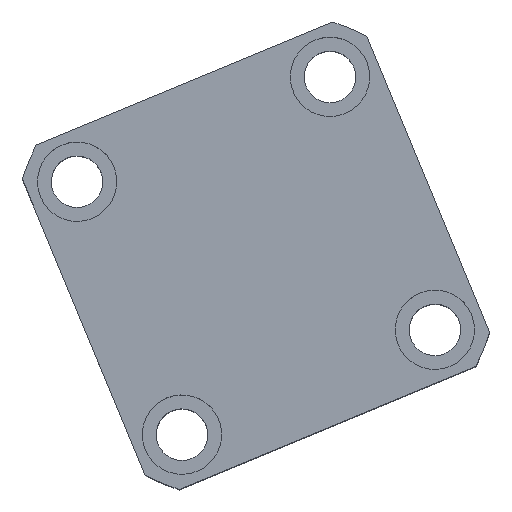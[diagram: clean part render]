
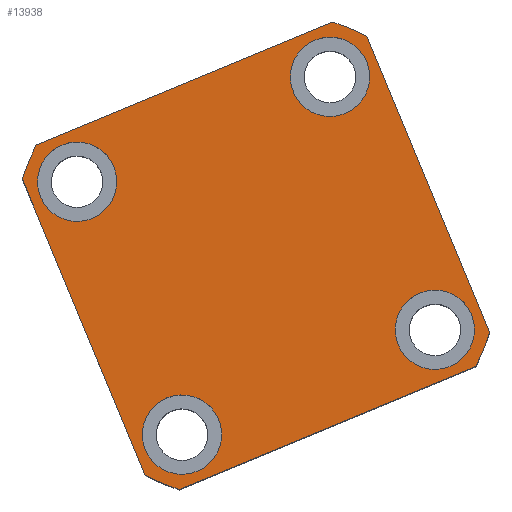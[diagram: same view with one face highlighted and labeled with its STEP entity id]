
A CAD part, top view. The second image highlights one B-rep face of the part: STEP entity #13938.
In plain terms, the highlighted planar face has unit normal (0, 0, 1) as drawn and (0, 0, -1) by its records, which use the part's own axes.
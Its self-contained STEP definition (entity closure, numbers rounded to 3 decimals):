
#103 = CARTESIAN_POINT ( 'NONE',  ( 47., 47., 0. ) ) ;
#161 = CARTESIAN_POINT ( 'NONE',  ( 24.5, 34.5, 0. ) ) ;
#174 = LINE ( 'NONE', #7359, #17103 ) ;
#312 = CARTESIAN_POINT ( 'NONE',  ( -44.5, -34.5, 0. ) ) ;
#313 = FACE_BOUND ( 'NONE', #1278, .T. ) ;
#361 = VECTOR ( 'NONE', #8508, 1000. ) ;
#400 = CARTESIAN_POINT ( 'NONE',  ( 24.5, -34.5, 0. ) ) ;
#484 = DIRECTION ( 'NONE',  ( -1., 0., 0. ) ) ;
#492 = DIRECTION ( 'NONE',  ( 0., 0., 1. ) ) ;
#501 = DIRECTION ( 'NONE',  ( 0., 0., 1. ) ) ;
#611 = EDGE_LOOP ( 'NONE', ( #2810, #8060 ) ) ;
#699 = ORIENTED_EDGE ( 'NONE', *, *, #10868, .F. ) ;
#850 = DIRECTION ( 'NONE',  ( -1., 0., 0. ) ) ;
#938 = EDGE_CURVE ( 'NONE', #4225, #12045, #15136, .T. ) ;
#1091 = CARTESIAN_POINT ( 'NONE',  ( 34.5, -34.5, 0. ) ) ;
#1153 = ORIENTED_EDGE ( 'NONE', *, *, #5735, .F. ) ;
#1263 = EDGE_CURVE ( 'NONE', #16532, #9611, #10691, .T. ) ;
#1278 = EDGE_LOOP ( 'NONE', ( #1153, #9631 ) ) ;
#1404 = CIRCLE ( 'NONE', #14700, 10. ) ;
#1447 = VERTEX_POINT ( 'NONE', #13369 ) ;
#1728 = EDGE_LOOP ( 'NONE', ( #7489, #14930 ) ) ;
#1844 = VERTEX_POINT ( 'NONE', #14353 ) ;
#1932 = DIRECTION ( 'NONE',  ( 0., -1., 0. ) ) ;
#2237 = AXIS2_PLACEMENT_3D ( 'NONE', #1091, #10659, #2471 ) ;
#2323 = DIRECTION ( 'NONE',  ( 0., 0., -1. ) ) ;
#2344 = CARTESIAN_POINT ( 'NONE',  ( 44.5, 34.5, 0. ) ) ;
#2357 = ORIENTED_EDGE ( 'NONE', *, *, #8253, .F. ) ;
#2471 = DIRECTION ( 'NONE',  ( -1., 0., 0. ) ) ;
#2764 = EDGE_CURVE ( 'NONE', #6908, #12779, #10477, .T. ) ;
#2810 = ORIENTED_EDGE ( 'NONE', *, *, #2764, .F. ) ;
#2971 = AXIS2_PLACEMENT_3D ( 'NONE', #7930, #17462, #9298 ) ;
#3172 = VERTEX_POINT ( 'NONE', #9574 ) ;
#3233 = CARTESIAN_POINT ( 'NONE',  ( -34.5, 34.5, 0. ) ) ;
#3366 = CIRCLE ( 'NONE', #17109, 62. ) ;
#3500 = ORIENTED_EDGE ( 'NONE', *, *, #938, .F. ) ;
#3596 = CARTESIAN_POINT ( 'NONE',  ( 34.5, 34.5, 0. ) ) ;
#3811 = ORIENTED_EDGE ( 'NONE', *, *, #14426, .F. ) ;
#4085 = EDGE_CURVE ( 'NONE', #4967, #10152, #11277, .T. ) ;
#4185 = VECTOR ( 'NONE', #15156, 1000. ) ;
#4225 = VERTEX_POINT ( 'NONE', #9407 ) ;
#4248 = DIRECTION ( 'NONE',  ( 0., 0., -1. ) ) ;
#4285 = CARTESIAN_POINT ( 'NONE',  ( 40.435, -47., 0. ) ) ;
#4385 = CARTESIAN_POINT ( 'NONE',  ( -47., -47., 0. ) ) ;
#4495 = DIRECTION ( 'NONE',  ( 0., 0., 1. ) ) ;
#4607 = DIRECTION ( 'NONE',  ( -1., 0., 0. ) ) ;
#4765 = CARTESIAN_POINT ( 'NONE',  ( 0., 0., 0. ) ) ;
#4937 = CARTESIAN_POINT ( 'NONE',  ( -47., 47., 0. ) ) ;
#4967 = VERTEX_POINT ( 'NONE', #13438 ) ;
#4975 = DIRECTION ( 'NONE',  ( -1., 0., 0. ) ) ;
#5133 = CARTESIAN_POINT ( 'NONE',  ( 40.435, 47., 0. ) ) ;
#5182 = EDGE_CURVE ( 'NONE', #6122, #1447, #14861, .T. ) ;
#5447 = AXIS2_PLACEMENT_3D ( 'NONE', #15232, #492, #10076 ) ;
#5735 = EDGE_CURVE ( 'NONE', #12577, #1844, #1404, .T. ) ;
#5755 = EDGE_CURVE ( 'NONE', #14320, #7280, #7846, .T. ) ;
#6030 = CARTESIAN_POINT ( 'NONE',  ( -24.5, -34.5, 0. ) ) ;
#6122 = VERTEX_POINT ( 'NONE', #400 ) ;
#6151 = DIRECTION ( 'NONE',  ( 1., 0., 0. ) ) ;
#6275 = DIRECTION ( 'NONE',  ( 0., 0., 1. ) ) ;
#6372 = AXIS2_PLACEMENT_3D ( 'NONE', #4765, #14292, #6151 ) ;
#6772 = ORIENTED_EDGE ( 'NONE', *, *, #4085, .F. ) ;
#6798 = EDGE_LOOP ( 'NONE', ( #11130, #9826, #15850, #6772, #3811, #2357, #3500, #9234 ) ) ;
#6908 = VERTEX_POINT ( 'NONE', #312 ) ;
#7124 = AXIS2_PLACEMENT_3D ( 'NONE', #10512, #2323, #11862 ) ;
#7162 = LINE ( 'NONE', #4937, #17630 ) ;
#7190 = FACE_OUTER_BOUND ( 'NONE', #6798, .T. ) ;
#7280 = VERTEX_POINT ( 'NONE', #8967 ) ;
#7359 = CARTESIAN_POINT ( 'NONE',  ( -47., 47., 0. ) ) ;
#7489 = ORIENTED_EDGE ( 'NONE', *, *, #5182, .F. ) ;
#7646 = FACE_BOUND ( 'NONE', #611, .T. ) ;
#7846 = LINE ( 'NONE', #103, #4185 ) ;
#7930 = CARTESIAN_POINT ( 'NONE',  ( -34.5, -34.5, 0. ) ) ;
#8038 = CIRCLE ( 'NONE', #7124, 10. ) ;
#8060 = ORIENTED_EDGE ( 'NONE', *, *, #16158, .F. ) ;
#8067 = FACE_BOUND ( 'NONE', #1728, .T. ) ;
#8253 = EDGE_CURVE ( 'NONE', #12045, #3172, #174, .T. ) ;
#8292 = AXIS2_PLACEMENT_3D ( 'NONE', #3233, #12784, #4607 ) ;
#8318 = AXIS2_PLACEMENT_3D ( 'NONE', #16867, #8704, #484 ) ;
#8508 = DIRECTION ( 'NONE',  ( 1., 0., 0. ) ) ;
#8704 = DIRECTION ( 'NONE',  ( 0., 0., -1. ) ) ;
#8709 = PLANE ( 'NONE',  #5447 ) ;
#8716 = CARTESIAN_POINT ( 'NONE',  ( 0., 0., 0. ) ) ;
#8967 = CARTESIAN_POINT ( 'NONE',  ( 47., 40.435, 0. ) ) ;
#9053 = DIRECTION ( 'NONE',  ( 0., 0., -1. ) ) ;
#9098 = VERTEX_POINT ( 'NONE', #5133 ) ;
#9234 = ORIENTED_EDGE ( 'NONE', *, *, #11064, .F. ) ;
#9298 = DIRECTION ( 'NONE',  ( -1., 0., 0. ) ) ;
#9307 = CIRCLE ( 'NONE', #8292, 10. ) ;
#9407 = CARTESIAN_POINT ( 'NONE',  ( -40.435, 47., 0. ) ) ;
#9574 = CARTESIAN_POINT ( 'NONE',  ( -47., -40.435, 0. ) ) ;
#9611 = VERTEX_POINT ( 'NONE', #2344 ) ;
#9631 = ORIENTED_EDGE ( 'NONE', *, *, #11912, .F. ) ;
#9826 = ORIENTED_EDGE ( 'NONE', *, *, #5755, .F. ) ;
#10041 = ORIENTED_EDGE ( 'NONE', *, *, #1263, .F. ) ;
#10076 = DIRECTION ( 'NONE',  ( 1., 0., 0. ) ) ;
#10084 = DIRECTION ( 'NONE',  ( 1., 0., 0. ) ) ;
#10152 = VERTEX_POINT ( 'NONE', #4285 ) ;
#10477 = CIRCLE ( 'NONE', #11813, 10. ) ;
#10512 = CARTESIAN_POINT ( 'NONE',  ( 34.5, 34.5, 0. ) ) ;
#10659 = DIRECTION ( 'NONE',  ( 0., 0., -1. ) ) ;
#10691 = CIRCLE ( 'NONE', #16165, 10. ) ;
#10868 = EDGE_CURVE ( 'NONE', #9611, #16532, #8038, .T. ) ;
#11024 = CIRCLE ( 'NONE', #17336, 62. ) ;
#11064 = EDGE_CURVE ( 'NONE', #9098, #4225, #7162, .T. ) ;
#11130 = ORIENTED_EDGE ( 'NONE', *, *, #12960, .F. ) ;
#11277 = LINE ( 'NONE', #4385, #361 ) ;
#11337 = EDGE_CURVE ( 'NONE', #1447, #6122, #16351, .T. ) ;
#11813 = AXIS2_PLACEMENT_3D ( 'NONE', #17222, #9053, #850 ) ;
#11862 = DIRECTION ( 'NONE',  ( -1., 0., 0. ) ) ;
#11912 = EDGE_CURVE ( 'NONE', #1844, #12577, #9307, .T. ) ;
#11996 = CARTESIAN_POINT ( 'NONE',  ( -44.5, 34.5, 0. ) ) ;
#12045 = VERTEX_POINT ( 'NONE', #15586 ) ;
#12426 = CARTESIAN_POINT ( 'NONE',  ( -34.5, 34.5, 0. ) ) ;
#12577 = VERTEX_POINT ( 'NONE', #11996 ) ;
#12666 = CARTESIAN_POINT ( 'NONE',  ( 0., 0., 0. ) ) ;
#12779 = VERTEX_POINT ( 'NONE', #6030 ) ;
#12784 = DIRECTION ( 'NONE',  ( 0., 0., -1. ) ) ;
#12960 = EDGE_CURVE ( 'NONE', #7280, #9098, #3366, .T. ) ;
#13147 = DIRECTION ( 'NONE',  ( 0., 0., -1. ) ) ;
#13182 = CIRCLE ( 'NONE', #2971, 10. ) ;
#13369 = CARTESIAN_POINT ( 'NONE',  ( 44.5, -34.5, 0. ) ) ;
#13414 = AXIS2_PLACEMENT_3D ( 'NONE', #8716, #501, #10084 ) ;
#13438 = CARTESIAN_POINT ( 'NONE',  ( -40.435, -47., 0. ) ) ;
#13794 = DIRECTION ( 'NONE',  ( -1., 0., 0. ) ) ;
#13938 = ADVANCED_FACE ( 'NONE', ( #14449, #7646, #8067, #313, #7190 ), #8709, .F. ) ;
#14031 = DIRECTION ( 'NONE',  ( 1., 0., 0. ) ) ;
#14076 = EDGE_CURVE ( 'NONE', #10152, #14320, #16797, .T. ) ;
#14292 = DIRECTION ( 'NONE',  ( 0., 0., 1. ) ) ;
#14320 = VERTEX_POINT ( 'NONE', #16666 ) ;
#14353 = CARTESIAN_POINT ( 'NONE',  ( -24.5, 34.5, 0. ) ) ;
#14418 = CARTESIAN_POINT ( 'NONE',  ( 0., 0., 0. ) ) ;
#14426 = EDGE_CURVE ( 'NONE', #3172, #4967, #11024, .T. ) ;
#14449 = FACE_BOUND ( 'NONE', #17474, .T. ) ;
#14459 = DIRECTION ( 'NONE',  ( -1., 0., 0. ) ) ;
#14700 = AXIS2_PLACEMENT_3D ( 'NONE', #12426, #4248, #13794 ) ;
#14861 = CIRCLE ( 'NONE', #8318, 10. ) ;
#14930 = ORIENTED_EDGE ( 'NONE', *, *, #11337, .F. ) ;
#15136 = CIRCLE ( 'NONE', #13414, 62. ) ;
#15156 = DIRECTION ( 'NONE',  ( 0., 1., 0. ) ) ;
#15232 = CARTESIAN_POINT ( 'NONE',  ( 0., 0., 0. ) ) ;
#15586 = CARTESIAN_POINT ( 'NONE',  ( -47., 40.435, 0. ) ) ;
#15813 = DIRECTION ( 'NONE',  ( 1., 0., 0. ) ) ;
#15850 = ORIENTED_EDGE ( 'NONE', *, *, #14076, .F. ) ;
#16158 = EDGE_CURVE ( 'NONE', #12779, #6908, #13182, .T. ) ;
#16165 = AXIS2_PLACEMENT_3D ( 'NONE', #3596, #13147, #4975 ) ;
#16351 = CIRCLE ( 'NONE', #2237, 10. ) ;
#16532 = VERTEX_POINT ( 'NONE', #161 ) ;
#16666 = CARTESIAN_POINT ( 'NONE',  ( 47., -40.435, 0. ) ) ;
#16797 = CIRCLE ( 'NONE', #6372, 62. ) ;
#16867 = CARTESIAN_POINT ( 'NONE',  ( 34.5, -34.5, 0. ) ) ;
#17103 = VECTOR ( 'NONE', #1932, 1000. ) ;
#17109 = AXIS2_PLACEMENT_3D ( 'NONE', #14418, #6275, #15813 ) ;
#17222 = CARTESIAN_POINT ( 'NONE',  ( -34.5, -34.5, 0. ) ) ;
#17336 = AXIS2_PLACEMENT_3D ( 'NONE', #12666, #4495, #14031 ) ;
#17462 = DIRECTION ( 'NONE',  ( 0., 0., -1. ) ) ;
#17474 = EDGE_LOOP ( 'NONE', ( #10041, #699 ) ) ;
#17630 = VECTOR ( 'NONE', #14459, 1000. ) ;
